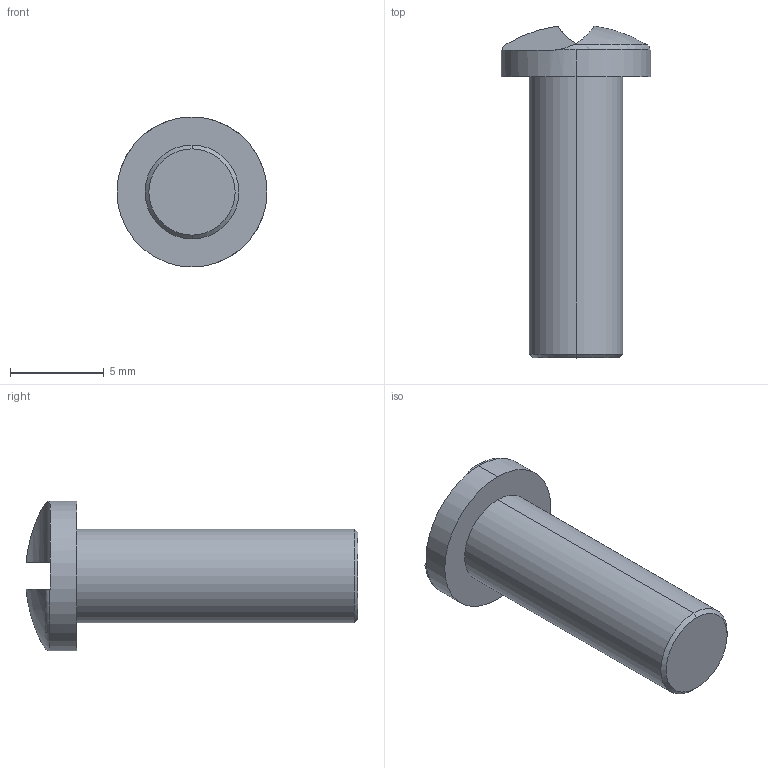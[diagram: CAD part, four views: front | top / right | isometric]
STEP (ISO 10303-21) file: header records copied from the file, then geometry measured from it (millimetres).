
FILE_DESCRIPTION (( 'STEP AP203' ), '1' );
FILE_NAME ('5954.STEP', '2017-09-21T09:02:52', ( 'utente' ), ( 'Microsoft' ), 'SwSTEP 2.0', 'SolidWorks 2014', '' );
FILE_SCHEMA (( 'CONFIG_CONTROL_DESIGN' ));
Length unit declared in the file: millimetre
Products named in the file (1): 5954
Bounding box: 8 x 17.7 x 8 mm (x, y, z)
Volume: 378.9 mm3; surface area: 382.1 mm2
Topology: 1 solids, 1 shells, 18 faces, 42 edges, 27 vertices
Faces by surface type: cylinder 6, plane 5, torus 3, cone 2, sphere 2
Entity records: 633 total; most frequent: CARTESIAN_POINT 136, DIRECTION 94, ORIENTED_EDGE 84, EDGE_CURVE 42, AXIS2_PLACEMENT_3D 41, VERTEX_POINT 27, CIRCLE 22, EDGE_LOOP 19
